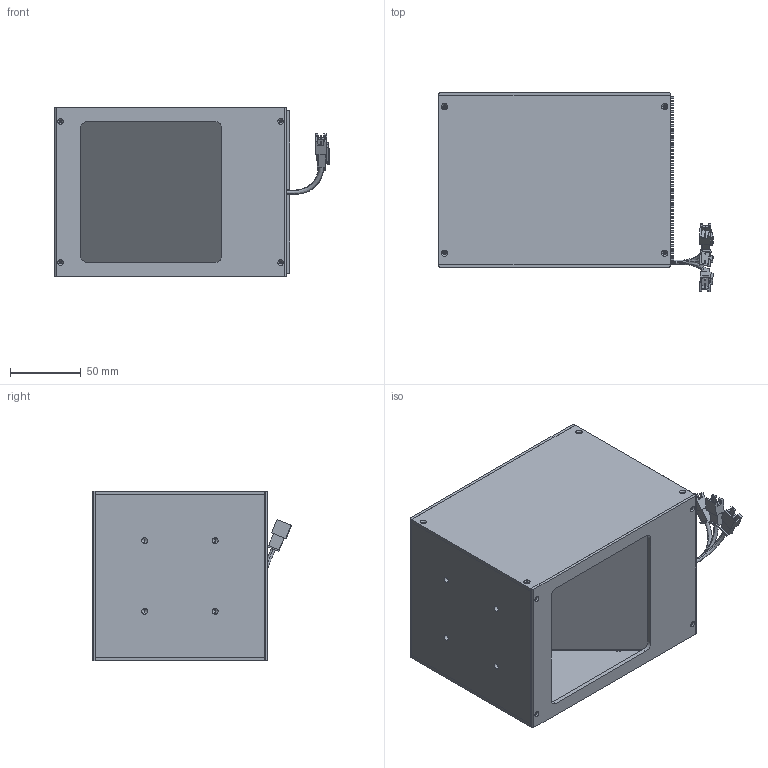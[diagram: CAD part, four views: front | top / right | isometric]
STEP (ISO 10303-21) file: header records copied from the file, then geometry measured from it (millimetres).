
FILE_DESCRIPTION (( 'STEP AP214' ), '1' );
FILE_NAME ('CAS2-00-100-X-RGB-24V-ASSEMBLY.STEP', '2017-01-16T04:02:53', ( '' ), ( '' ), 'SwSTEP 2.0', 'SolidWorks 2016', '' );
FILE_SCHEMA (( 'AUTOMOTIVE_DESIGN' ));
Length unit declared in the file: millimetre
Products named in the file (16): CAS2-00-100-X-X-24V-BEAM SPLITTER; MirrorCAS2-00-100-X-X-24V-SIDE PLATE-2___; CAS2-00-100-X-X-24V-TOP COVER___; O RING; CAS2-00-100-X-X-24V-SIDE STICKER-PET B SIDE; CAS2-00-100-X-X-24V-AR MIRROR; CABLE WITH CONNECTOR-ASSEMBLY; CAS2-00-100-X-X-24V-PCB-SMD; CABLE 3MM; CAS2-00-100-X-X-24V-TOP-SIDE PLATE___; CAS2-00-100-X-RGB-24V-ASSEMBLY; CAS2-00-100-X-X-24V-SIDE PLATE-2___; CAS2-00-100-X-X-24V-BOTTOM-SIDE PLATE___; CAS2-00-100-X-X-24V-BOTTOM COVER VER.2; 24V CONNECTER; CAS2-00-100-X-X-24V-DIFFUSER-TW433C
Assembly tree (23 placements, depth 3):
  CAS2-00-100-X-RGB-24V-ASSEMBLY
    CAS2-00-100-X-X-24V-BOTTOM-SIDE PLATE___
    CAS2-00-100-X-X-24V-SIDE PLATE-2___
    CAS2-00-100-X-X-24V-TOP COVER___
    CAS2-00-100-X-X-24V-DIFFUSER-TW433C
    CAS2-00-100-X-X-24V-TOP-SIDE PLATE___
    CAS2-00-100-X-X-24V-BEAM SPLITTER
    CAS2-00-100-X-X-24V-AR MIRROR
    CABLE WITH CONNECTOR-ASSEMBLY  x3
      CABLE 3MM
      24V CONNECTER
    CAS2-00-100-X-X-24V-BOTTOM COVER VER.2
    MirrorCAS2-00-100-X-X-24V-SIDE PLATE-2___
    CAS2-00-100-X-X-24V-SIDE STICKER-PET B SIDE  x4
    O RING  x4
    CAS2-00-100-X-X-24V-PCB-SMD
Bounding box: 194.35 x 141.15 x 120 mm (x, y, z)
Volume: 453144.6 mm3; surface area: 392995.8 mm2
Topology: 24 solids, 24 shells, 888 faces, 2379 edges, 1534 vertices
Faces by surface type: plane 628, cylinder 174, cone 72, torus 8, bspline 6
Entity records: 23610 total; most frequent: CARTESIAN_POINT 4090, ORIENTED_EDGE 3816, DIRECTION 3766, EDGE_CURVE 1908, VECTOR 1526, LINE 1526, VERTEX_POINT 1252, AXIS2_PLACEMENT_3D 1120
